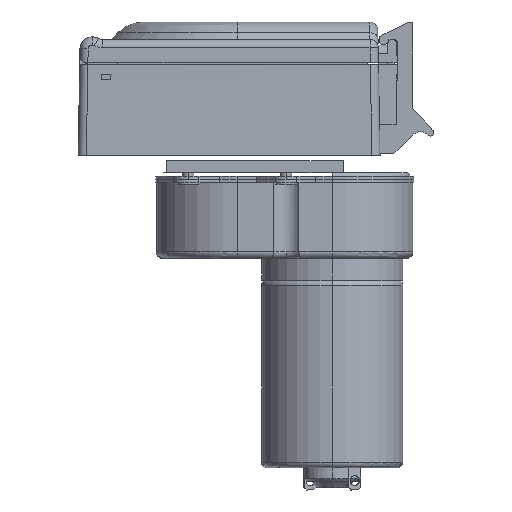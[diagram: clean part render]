
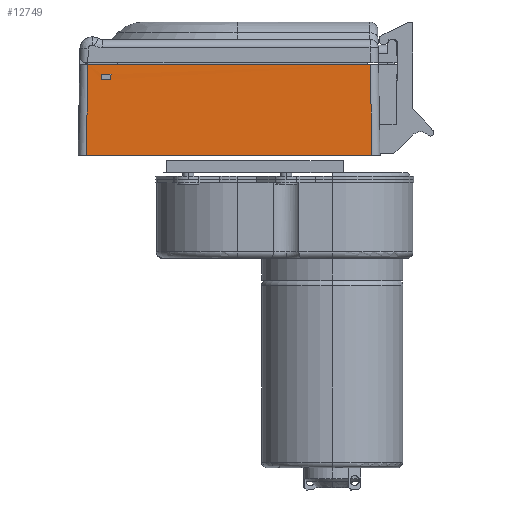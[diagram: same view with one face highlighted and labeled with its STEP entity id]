
A CAD part, left-side view. The second image highlights one B-rep face of the part: STEP entity #12749.
In plain terms, the highlighted planar face has unit normal (1, 0, -0.018).
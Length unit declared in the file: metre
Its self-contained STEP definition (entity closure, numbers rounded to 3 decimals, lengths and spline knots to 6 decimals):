
#80 = VECTOR ( 'NONE', #35609, 1. ) ;
#347 = VERTEX_POINT ( 'NONE', #30997 ) ;
#524 = EDGE_LOOP ( 'NONE', ( #12747, #6504, #30300, #5638 ) ) ;
#993 = CARTESIAN_POINT ( 'NONE',  ( -0.057546, 0.047599, 0.03575 ) ) ;
#2094 = CARTESIAN_POINT ( 'NONE',  ( -0.057517, 0.046404, 0.03575 ) ) ;
#3976 = DIRECTION ( 'NONE',  ( 0., 1., 0. ) ) ;
#4165 = EDGE_CURVE ( 'NONE', #6450, #13466, #26468, .T. ) ;
#5079 = ORIENTED_EDGE ( 'NONE', *, *, #17871, .F. ) ;
#5178 = CARTESIAN_POINT ( 'NONE',  ( -0.057524, 0.046432, 0.034503 ) ) ;
#5638 = ORIENTED_EDGE ( 'NONE', *, *, #32989, .F. ) ;
#5852 = CARTESIAN_POINT ( 'NONE',  ( -0.057513, 0.049846, 0.033881 ) ) ;
#5901 = FACE_BOUND ( 'NONE', #30557, .T. ) ;
#6286 = VERTEX_POINT ( 'NONE', #15577 ) ;
#6349 = CARTESIAN_POINT ( 'NONE',  ( -0.057517, 0.049879, 0.03575 ) ) ;
#6450 = VERTEX_POINT ( 'NONE', #12230 ) ;
#6504 = ORIENTED_EDGE ( 'NONE', *, *, #31128, .F. ) ;
#6776 = B_SPLINE_CURVE_WITH_KNOTS ( 'NONE', 3,
 ( #2094, #22085, #5178, #24963 ),
 .UNSPECIFIED., .F., .F.,
 ( 4, 4 ),
 ( 0., 1. ),
 .UNSPECIFIED. ) ;
#6906 = EDGE_CURVE ( 'NONE', #30088, #19009, #11380, .T. ) ;
#6917 = LINE ( 'NONE', #35065, #36249 ) ;
#7140 = CARTESIAN_POINT ( 'NONE',  ( -0.05742, 0.05492, 0.03925 ) ) ;
#7347 = CARTESIAN_POINT ( 'NONE',  ( -0.05742, -0.049, 0.03925 ) ) ;
#9863 = DIRECTION ( 'NONE',  ( -1., 0., 0.017 ) ) ;
#10233 = AXIS2_PLACEMENT_3D ( 'NONE', #35373, #9863, #29777 ) ;
#10535 = CARTESIAN_POINT ( 'NONE',  ( -0.058, -0.049581, 0.006 ) ) ;
#11064 = LINE ( 'NONE', #18541, #80 ) ;
#11380 = LINE ( 'NONE', #17933, #19831 ) ;
#11465 = CARTESIAN_POINT ( 'NONE',  ( -0.057517, 0.049879, 0.03575 ) ) ;
#12230 = CARTESIAN_POINT ( 'NONE',  ( -0.058, 0.0555, 0.006 ) ) ;
#12747 = ORIENTED_EDGE ( 'NONE', *, *, #6906, .F. ) ;
#12749 = ADVANCED_FACE ( 'NONE', ( #5901, #36081 ), #24008, .F. ) ;
#13341 = ORIENTED_EDGE ( 'NONE', *, *, #23215, .F. ) ;
#13466 = VERTEX_POINT ( 'NONE', #32713 ) ;
#14488 = VECTOR ( 'NONE', #30462, 1. ) ;
#15031 = B_SPLINE_CURVE_WITH_KNOTS ( 'NONE', 3,
 ( #17913, #34974, #993, #20739 ),
 .UNSPECIFIED., .F., .F.,
 ( 4, 4 ),
 ( 0., 1. ),
 .UNSPECIFIED. ) ;
#15577 = CARTESIAN_POINT ( 'NONE',  ( -0.057513, 0.046455, 0.033881 ) ) ;
#17871 = EDGE_CURVE ( 'NONE', #6286, #347, #11064, .T. ) ;
#17913 = CARTESIAN_POINT ( 'NONE',  ( -0.057517, 0.049879, 0.03575 ) ) ;
#17933 = CARTESIAN_POINT ( 'NONE',  ( -0.05742, -0.059, 0.03925 ) ) ;
#18297 = CARTESIAN_POINT ( 'NONE',  ( -0.057517, 0.046404, 0.03575 ) ) ;
#18507 = ORIENTED_EDGE ( 'NONE', *, *, #36165, .F. ) ;
#18541 = CARTESIAN_POINT ( 'NONE',  ( -0.057513, 0.0585, 0.033881 ) ) ;
#19009 = VERTEX_POINT ( 'NONE', #7140 ) ;
#19831 = VECTOR ( 'NONE', #3976, 1. ) ;
#20739 = CARTESIAN_POINT ( 'NONE',  ( -0.057517, 0.046404, 0.03575 ) ) ;
#22085 = CARTESIAN_POINT ( 'NONE',  ( -0.057535, 0.046409, 0.035126 ) ) ;
#22768 = CARTESIAN_POINT ( 'NONE',  ( -0.057524, 0.049851, 0.034503 ) ) ;
#23215 = EDGE_CURVE ( 'NONE', #27726, #29194, #15031, .T. ) ;
#24008 = PLANE ( 'NONE',  #10233 ) ;
#24963 = CARTESIAN_POINT ( 'NONE',  ( -0.057513, 0.046455, 0.033881 ) ) ;
#26468 = B_SPLINE_CURVE_WITH_KNOTS ( 'NONE', 3,
 ( #27995, #27820, #27622, #27578 ),
 .UNSPECIFIED., .F., .F.,
 ( 4, 4 ),
 ( 0., 1. ),
 .UNSPECIFIED. ) ;
#27468 = B_SPLINE_CURVE_WITH_KNOTS ( 'NONE', 3,
 ( #5852, #22768, #28543, #11465 ),
 .UNSPECIFIED., .F., .F.,
 ( 4, 4 ),
 ( 0., 1. ),
 .UNSPECIFIED. ) ;
#27578 = CARTESIAN_POINT ( 'NONE',  ( -0.058, -0.049581, 0.006 ) ) ;
#27622 = CARTESIAN_POINT ( 'NONE',  ( -0.058, -0.014554, 0.006 ) ) ;
#27726 = VERTEX_POINT ( 'NONE', #6349 ) ;
#27820 = CARTESIAN_POINT ( 'NONE',  ( -0.058, 0.020473, 0.006 ) ) ;
#27848 = LINE ( 'NONE', #10535, #14488 ) ;
#27995 = CARTESIAN_POINT ( 'NONE',  ( -0.058, 0.0555, 0.006 ) ) ;
#28543 = CARTESIAN_POINT ( 'NONE',  ( -0.057535, 0.049856, 0.035126 ) ) ;
#28860 = ORIENTED_EDGE ( 'NONE', *, *, #29689, .F. ) ;
#29194 = VERTEX_POINT ( 'NONE', #18297 ) ;
#29689 = EDGE_CURVE ( 'NONE', #29194, #6286, #6776, .T. ) ;
#29777 = DIRECTION ( 'NONE',  ( 0.017, 0., 1. ) ) ;
#30088 = VERTEX_POINT ( 'NONE', #7347 ) ;
#30300 = ORIENTED_EDGE ( 'NONE', *, *, #4165, .F. ) ;
#30462 = DIRECTION ( 'NONE',  ( 0.017, 0.017, 1. ) ) ;
#30557 = EDGE_LOOP ( 'NONE', ( #18507, #5079, #28860, #13341 ) ) ;
#30997 = CARTESIAN_POINT ( 'NONE',  ( -0.057513, 0.049846, 0.033881 ) ) ;
#31128 = EDGE_CURVE ( 'NONE', #13466, #30088, #27848, .T. ) ;
#32713 = CARTESIAN_POINT ( 'NONE',  ( -0.058, -0.049581, 0.006 ) ) ;
#32989 = EDGE_CURVE ( 'NONE', #19009, #6450, #6917, .T. ) ;
#34974 = CARTESIAN_POINT ( 'NONE',  ( -0.057546, 0.048757, 0.03575 ) ) ;
#35065 = CARTESIAN_POINT ( 'NONE',  ( -0.05742, 0.05492, 0.03925 ) ) ;
#35373 = CARTESIAN_POINT ( 'NONE',  ( -0.058, 0.0585, 0.006 ) ) ;
#35609 = DIRECTION ( 'NONE',  ( 0., 1., 0. ) ) ;
#36081 = FACE_OUTER_BOUND ( 'NONE', #524, .T. ) ;
#36165 = EDGE_CURVE ( 'NONE', #347, #27726, #27468, .T. ) ;
#36178 = DIRECTION ( 'NONE',  ( -0.017, 0.017, -1. ) ) ;
#36249 = VECTOR ( 'NONE', #36178, 1. ) ;
